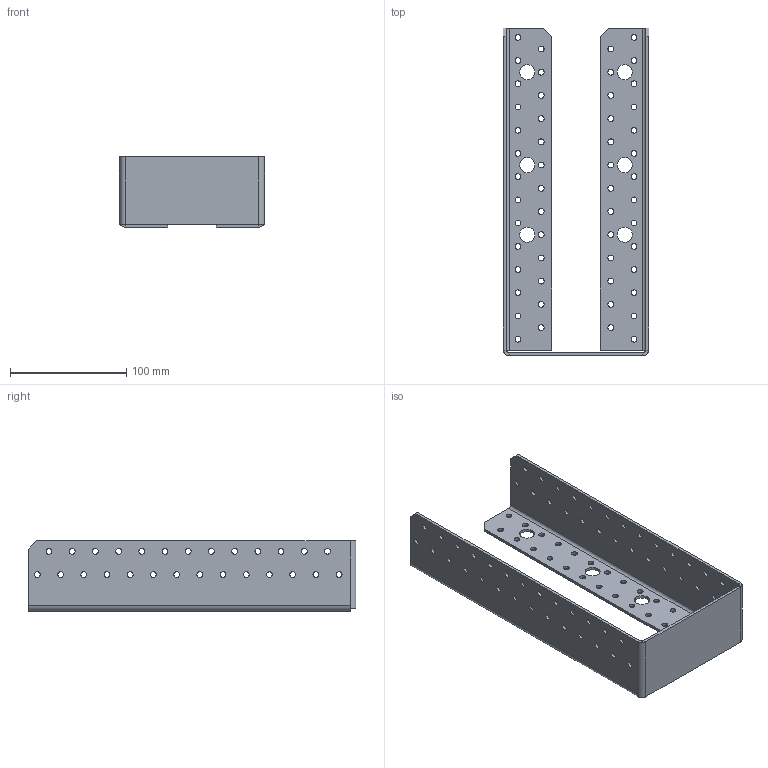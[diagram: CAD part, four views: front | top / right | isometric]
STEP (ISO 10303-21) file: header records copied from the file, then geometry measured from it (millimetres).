
FILE_DESCRIPTION (( 'STEP AP203' ), '1' );
FILE_NAME ('40506IKO.STEP', '2021-04-16T07:51:46', ( '' ), ( '' ), 'SwSTEP 2.0', 'SolidWorks 2013', '' );
FILE_SCHEMA (( 'CONFIG_CONTROL_DESIGN' ));
Length unit declared in the file: millimetre
Products named in the file (1): 40506IKO
Bounding box: 125 x 282.5 x 60.5 mm (x, y, z)
Volume: 146668.9 mm3; surface area: 126247.8 mm2
Topology: 1 solids, 1 shells, 272 faces, 780 edges, 510 vertices
Faces by surface type: cylinder 236, plane 36
Entity records: 9671 total; most frequent: DIRECTION 1800, CARTESIAN_POINT 1563, ORIENTED_EDGE 1560, EDGE_CURVE 780, AXIS2_PLACEMENT_3D 747, VERTEX_POINT 510, EDGE_LOOP 500, CIRCLE 474
